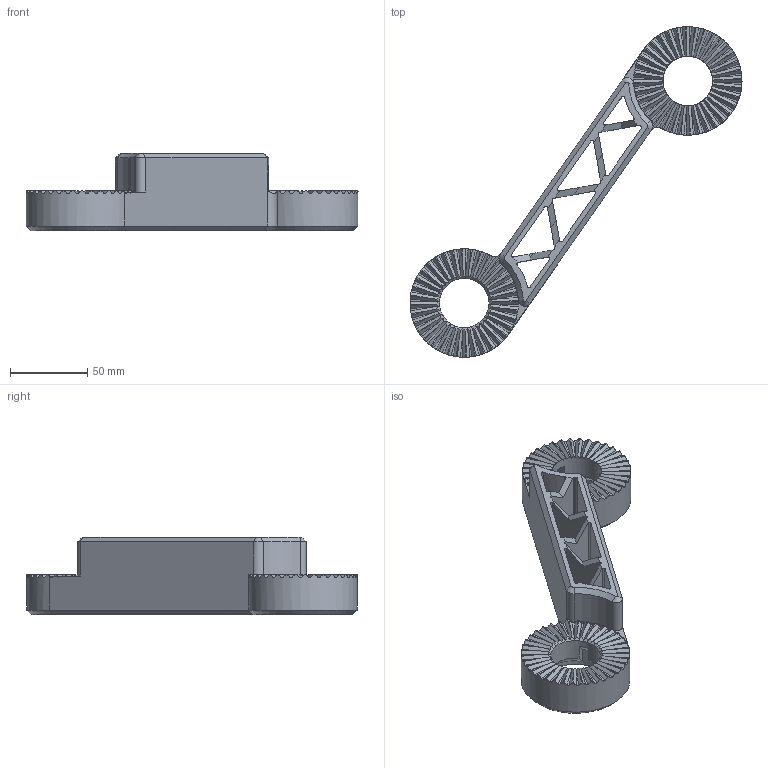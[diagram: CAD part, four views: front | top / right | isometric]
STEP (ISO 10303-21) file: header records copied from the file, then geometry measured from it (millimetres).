
FILE_DESCRIPTION(/* description */ (''),/* implementation_level */ '2;1');
FILE_NAME(/* name */ '/Users/rostapetr/Downloads/arm-web.step',/* time_stamp */ '2022-04-16T22:19:08+02:00',/* author */ (''),/* organization */ (''),/* preprocessor_version */ 'ST-DEVELOPER v18.1',/* originating_system */ 'Autodesk Translation Framework v10.14.0.1471',/* authorisation */ '');
FILE_SCHEMA (('AUTOMOTIVE_DESIGN { 1 0 10303 214 3 1 1 }'));
Length unit declared in the file: millimetre
Products named in the file (1): arm-web
Bounding box: 214.32 x 213.35 x 50 mm (x, y, z)
Volume: 267043.1 mm3; surface area: 72338 mm2
Topology: 1 solids, 1 shells, 447 faces, 1322 edges, 865 vertices
Faces by surface type: plane 350, cylinder 70, cone 27
Full cylindrical faces by diameter (mm): 32 x2, 45.5 x2
Entity records: 15065 total; most frequent: CARTESIAN_POINT 2877, DIRECTION 2651, ORIENTED_EDGE 2644, EDGE_CURVE 1322, AXIS2_PLACEMENT_3D 996, VERTEX_POINT 865, LINE 659, VECTOR 659
